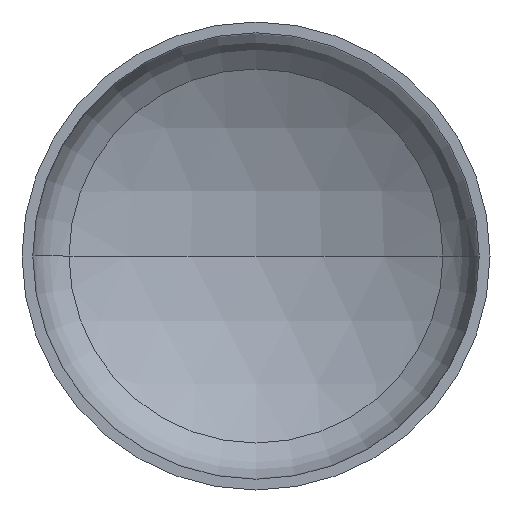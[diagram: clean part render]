
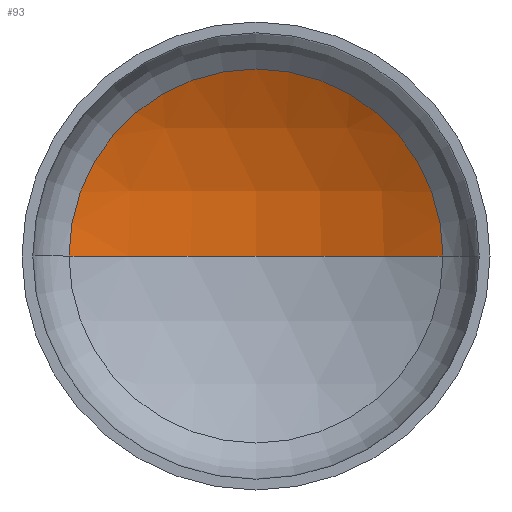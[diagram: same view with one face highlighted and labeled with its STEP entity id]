
A CAD part, front view. The second image highlights one B-rep face of the part: STEP entity #93.
In plain terms, the highlighted spherical face has radius 3600 mm.
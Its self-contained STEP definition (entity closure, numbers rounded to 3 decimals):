
#1 = AXIS2_PLACEMENT_3D ( 'NONE', #100, #195, #252 ) ;
#12 = AXIS2_PLACEMENT_3D ( 'NONE', #97, #87, #95 ) ;
#13 = DIRECTION ( 'NONE',  ( -1., 0., 0. ) ) ;
#17 = AXIS2_PLACEMENT_3D ( 'NONE', #18, #127, #13 ) ;
#18 = CARTESIAN_POINT ( 'NONE',  ( 0., -2441.669, 0. ) ) ;
#27 = CIRCLE ( 'NONE', #174, 3600. ) ;
#55 = VERTEX_POINT ( 'NONE', #298 ) ;
#63 = DIRECTION ( 'NONE',  ( 0., 0., -1. ) ) ;
#64 = CIRCLE ( 'NONE', #12, 3600. ) ;
#75 = CARTESIAN_POINT ( 'NONE',  ( -1798.141, 677.095, 0. ) ) ;
#79 = CARTESIAN_POINT ( 'NONE',  ( 0., -2441.669, 0. ) ) ;
#80 = DIRECTION ( 'NONE',  ( -1., 0., 0. ) ) ;
#87 = DIRECTION ( 'NONE',  ( 0., 0., 1. ) ) ;
#89 = FACE_OUTER_BOUND ( 'NONE', #146, .T. ) ;
#93 = ADVANCED_FACE ( 'NONE', ( #89 ), #388, .F. ) ;
#95 = DIRECTION ( 'NONE',  ( 1., 0., 0. ) ) ;
#97 = CARTESIAN_POINT ( 'NONE',  ( 0., -2441.669, 0. ) ) ;
#100 = CARTESIAN_POINT ( 'NONE',  ( 0., 677.095, 0. ) ) ;
#127 = DIRECTION ( 'NONE',  ( 0., 0., -1. ) ) ;
#135 = CIRCLE ( 'NONE', #1, 1798.141 ) ;
#146 = EDGE_LOOP ( 'NONE', ( #377, #214, #319 ) ) ;
#174 = AXIS2_PLACEMENT_3D ( 'NONE', #79, #63, #80 ) ;
#195 = DIRECTION ( 'NONE',  ( 0., -1., 0. ) ) ;
#214 = ORIENTED_EDGE ( 'NONE', *, *, #336, .T. ) ;
#252 = DIRECTION ( 'NONE',  ( 1., 0., 0. ) ) ;
#298 = CARTESIAN_POINT ( 'NONE',  ( 1798.141, 677.095, 0. ) ) ;
#313 = VERTEX_POINT ( 'NONE', #75 ) ;
#315 = EDGE_CURVE ( 'NONE', #366, #313, #64, .T. ) ;
#319 = ORIENTED_EDGE ( 'NONE', *, *, #330, .T. ) ;
#330 = EDGE_CURVE ( 'NONE', #55, #313, #135, .T. ) ;
#336 = EDGE_CURVE ( 'NONE', #366, #55, #27, .T. ) ;
#356 = CARTESIAN_POINT ( 'NONE',  ( 0., 1158.331, 0. ) ) ;
#366 = VERTEX_POINT ( 'NONE', #356 ) ;
#377 = ORIENTED_EDGE ( 'NONE', *, *, #315, .F. ) ;
#388 = SPHERICAL_SURFACE ( 'NONE', #17, 3600. ) ;
